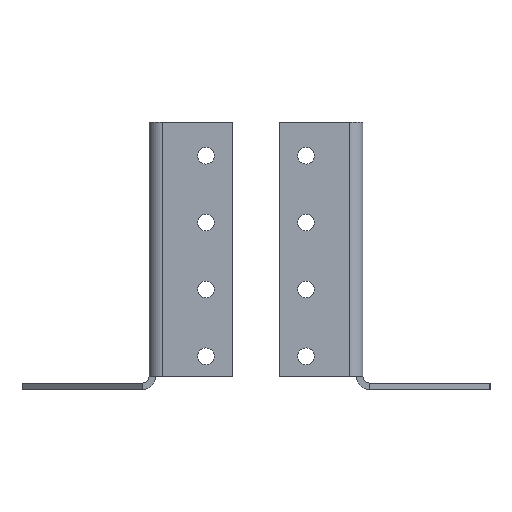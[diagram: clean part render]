
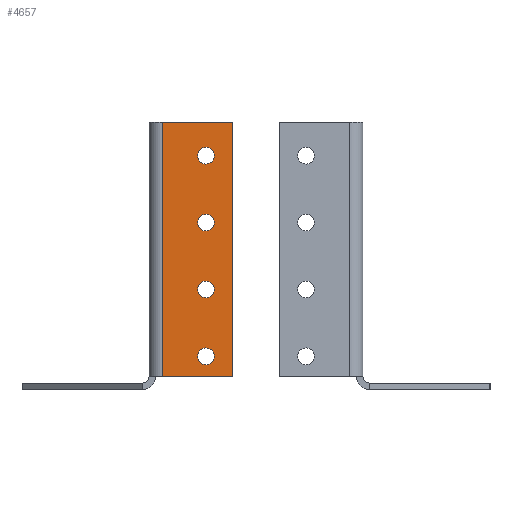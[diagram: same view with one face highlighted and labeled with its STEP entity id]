
A CAD part, front view. The second image highlights one B-rep face of the part: STEP entity #4657.
In plain terms, the highlighted planar face has unit normal (0, -1, 0).
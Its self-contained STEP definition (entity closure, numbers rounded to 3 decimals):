
#43 = ORIENTED_EDGE ( 'NONE', *, *, #5623, .T. ) ;
#61 = CARTESIAN_POINT ( 'NONE',  ( 15., -2., -67.5 ) ) ;
#75 = AXIS2_PLACEMENT_3D ( 'NONE', #5603, #2849, #3326 ) ;
#101 = DIRECTION ( 'NONE',  ( 0., 1., 0. ) ) ;
#245 = DIRECTION ( 'NONE',  ( 1., 0., 0. ) ) ;
#262 = AXIS2_PLACEMENT_3D ( 'NONE', #4849, #2212, #2064 ) ;
#349 = VERTEX_POINT ( 'NONE', #3607 ) ;
#364 = CIRCLE ( 'NONE', #3169, 2.5 ) ;
#425 = CIRCLE ( 'NONE', #75, 2.5 ) ;
#443 = AXIS2_PLACEMENT_3D ( 'NONE', #4251, #3810, #2897 ) ;
#467 = DIRECTION ( 'NONE',  ( 0., 1., 0. ) ) ;
#471 = VERTEX_POINT ( 'NONE', #5442 ) ;
#495 = EDGE_CURVE ( 'NONE', #471, #1691, #364, .T. ) ;
#539 = EDGE_CURVE ( 'NONE', #5553, #4862, #1937, .T. ) ;
#544 = DIRECTION ( 'NONE',  ( 0., 0., -1. ) ) ;
#609 = DIRECTION ( 'NONE',  ( 0., 0., -1. ) ) ;
#778 = EDGE_LOOP ( 'NONE', ( #2903, #2711 ) ) ;
#1003 = DIRECTION ( 'NONE',  ( 0., 1., 0. ) ) ;
#1057 = LINE ( 'NONE', #1987, #4549 ) ;
#1276 = ORIENTED_EDGE ( 'NONE', *, *, #3389, .F. ) ;
#1291 = FACE_BOUND ( 'NONE', #4725, .T. ) ;
#1348 = CARTESIAN_POINT ( 'NONE',  ( 15., -2., -30. ) ) ;
#1360 = VERTEX_POINT ( 'NONE', #5073 ) ;
#1498 = FACE_OUTER_BOUND ( 'NONE', #5709, .T. ) ;
#1559 = DIRECTION ( 'NONE',  ( 0., 0., -1. ) ) ;
#1603 = ORIENTED_EDGE ( 'NONE', *, *, #5418, .T. ) ;
#1691 = VERTEX_POINT ( 'NONE', #5305 ) ;
#1730 = CARTESIAN_POINT ( 'NONE',  ( 15., -2., -52.5 ) ) ;
#1850 = AXIS2_PLACEMENT_3D ( 'NONE', #2080, #5669, #1559 ) ;
#1851 = DIRECTION ( 'NONE',  ( 0., 0., -1. ) ) ;
#1865 = ORIENTED_EDGE ( 'NONE', *, *, #4937, .T. ) ;
#1926 = VERTEX_POINT ( 'NONE', #5208 ) ;
#1937 = CIRCLE ( 'NONE', #1850, 2.5 ) ;
#1967 = CARTESIAN_POINT ( 'NONE',  ( 15., -2., -30. ) ) ;
#1987 = CARTESIAN_POINT ( 'NONE',  ( 0., -2., 0. ) ) ;
#2064 = DIRECTION ( 'NONE',  ( 0., 0., -1. ) ) ;
#2080 = CARTESIAN_POINT ( 'NONE',  ( 15., -2., -10. ) ) ;
#2134 = CIRCLE ( 'NONE', #443, 2.5 ) ;
#2184 = AXIS2_PLACEMENT_3D ( 'NONE', #1348, #1003, #4592 ) ;
#2212 = DIRECTION ( 'NONE',  ( 0., 1., 0. ) ) ;
#2288 = ORIENTED_EDGE ( 'NONE', *, *, #495, .T. ) ;
#2320 = CARTESIAN_POINT ( 'NONE',  ( 15., -2., -70. ) ) ;
#2388 = EDGE_CURVE ( 'NONE', #1360, #2688, #425, .T. ) ;
#2483 = FACE_BOUND ( 'NONE', #5334, .T. ) ;
#2544 = CIRCLE ( 'NONE', #4283, 2.5 ) ;
#2589 = LINE ( 'NONE', #3770, #3085 ) ;
#2688 = VERTEX_POINT ( 'NONE', #1730 ) ;
#2711 = ORIENTED_EDGE ( 'NONE', *, *, #539, .T. ) ;
#2762 = VERTEX_POINT ( 'NONE', #61 ) ;
#2828 = FACE_BOUND ( 'NONE', #3312, .T. ) ;
#2849 = DIRECTION ( 'NONE',  ( 0., 1., 0. ) ) ;
#2879 = DIRECTION ( 'NONE',  ( 0., 0., -1. ) ) ;
#2897 = DIRECTION ( 'NONE',  ( 0., 0., -1. ) ) ;
#2903 = ORIENTED_EDGE ( 'NONE', *, *, #5397, .T. ) ;
#2919 = CIRCLE ( 'NONE', #2184, 2.5 ) ;
#2974 = FACE_BOUND ( 'NONE', #778, .T. ) ;
#3049 = LINE ( 'NONE', #5801, #3199 ) ;
#3085 = VECTOR ( 'NONE', #3752, 1000. ) ;
#3149 = CARTESIAN_POINT ( 'NONE',  ( 15., -2., -12.5 ) ) ;
#3169 = AXIS2_PLACEMENT_3D ( 'NONE', #1967, #4188, #609 ) ;
#3195 = CIRCLE ( 'NONE', #262, 2.5 ) ;
#3199 = VECTOR ( 'NONE', #4441, 1000. ) ;
#3211 = CARTESIAN_POINT ( 'NONE',  ( 15., -2., -50. ) ) ;
#3241 = ORIENTED_EDGE ( 'NONE', *, *, #5574, .T. ) ;
#3312 = EDGE_LOOP ( 'NONE', ( #5656, #3241 ) ) ;
#3326 = DIRECTION ( 'NONE',  ( 0., 0., -1. ) ) ;
#3389 = EDGE_CURVE ( 'NONE', #3569, #1926, #2589, .T. ) ;
#3569 = VERTEX_POINT ( 'NONE', #5613 ) ;
#3607 = CARTESIAN_POINT ( 'NONE',  ( 23., -2., 0. ) ) ;
#3644 = VERTEX_POINT ( 'NONE', #3793 ) ;
#3656 = EDGE_CURVE ( 'NONE', #3644, #349, #1057, .T. ) ;
#3752 = DIRECTION ( 'NONE',  ( -1., 0., 0. ) ) ;
#3770 = CARTESIAN_POINT ( 'NONE',  ( 0., -2., -76. ) ) ;
#3778 = CARTESIAN_POINT ( 'NONE',  ( 15., -2., -7.5 ) ) ;
#3793 = CARTESIAN_POINT ( 'NONE',  ( 2., -2., 0. ) ) ;
#3810 = DIRECTION ( 'NONE',  ( 0., 1., 0. ) ) ;
#3856 = EDGE_CURVE ( 'NONE', #3644, #1926, #3049, .T. ) ;
#4040 = CIRCLE ( 'NONE', #5188, 2.5 ) ;
#4188 = DIRECTION ( 'NONE',  ( 0., 1., 0. ) ) ;
#4251 = CARTESIAN_POINT ( 'NONE',  ( 15., -2., -10. ) ) ;
#4283 = AXIS2_PLACEMENT_3D ( 'NONE', #2320, #101, #544 ) ;
#4397 = VECTOR ( 'NONE', #2879, 1000. ) ;
#4441 = DIRECTION ( 'NONE',  ( 0., 0., -1. ) ) ;
#4549 = VECTOR ( 'NONE', #245, 1000. ) ;
#4592 = DIRECTION ( 'NONE',  ( 0., 0., -1. ) ) ;
#4620 = DIRECTION ( 'NONE',  ( 0., 0., -1. ) ) ;
#4657 = ADVANCED_FACE ( 'NONE', ( #2483, #2828, #1291, #2974, #1498 ), #5532, .T. ) ;
#4660 = DIRECTION ( 'NONE',  ( 0., -1., 0. ) ) ;
#4693 = CARTESIAN_POINT ( 'NONE',  ( 23., -2., 0. ) ) ;
#4725 = EDGE_LOOP ( 'NONE', ( #1865, #2288 ) ) ;
#4760 = CARTESIAN_POINT ( 'NONE',  ( 15., -2., -72.5 ) ) ;
#4798 = AXIS2_PLACEMENT_3D ( 'NONE', #5550, #4660, #4620 ) ;
#4815 = LINE ( 'NONE', #4693, #4397 ) ;
#4824 = ORIENTED_EDGE ( 'NONE', *, *, #3656, .F. ) ;
#4849 = CARTESIAN_POINT ( 'NONE',  ( 15., -2., -70. ) ) ;
#4862 = VERTEX_POINT ( 'NONE', #3778 ) ;
#4869 = ORIENTED_EDGE ( 'NONE', *, *, #3856, .T. ) ;
#4937 = EDGE_CURVE ( 'NONE', #1691, #471, #2919, .T. ) ;
#5073 = CARTESIAN_POINT ( 'NONE',  ( 15., -2., -47.5 ) ) ;
#5188 = AXIS2_PLACEMENT_3D ( 'NONE', #3211, #467, #1851 ) ;
#5208 = CARTESIAN_POINT ( 'NONE',  ( 2., -2., -76. ) ) ;
#5305 = CARTESIAN_POINT ( 'NONE',  ( 15., -2., -27.5 ) ) ;
#5334 = EDGE_LOOP ( 'NONE', ( #43, #1603 ) ) ;
#5394 = EDGE_CURVE ( 'NONE', #349, #3569, #4815, .T. ) ;
#5397 = EDGE_CURVE ( 'NONE', #4862, #5553, #2134, .T. ) ;
#5418 = EDGE_CURVE ( 'NONE', #5794, #2762, #3195, .T. ) ;
#5442 = CARTESIAN_POINT ( 'NONE',  ( 15., -2., -32.5 ) ) ;
#5532 = PLANE ( 'NONE',  #4798 ) ;
#5550 = CARTESIAN_POINT ( 'NONE',  ( 0., -2., 0. ) ) ;
#5553 = VERTEX_POINT ( 'NONE', #3149 ) ;
#5574 = EDGE_CURVE ( 'NONE', #2688, #1360, #4040, .T. ) ;
#5603 = CARTESIAN_POINT ( 'NONE',  ( 15., -2., -50. ) ) ;
#5613 = CARTESIAN_POINT ( 'NONE',  ( 23., -2., -76. ) ) ;
#5623 = EDGE_CURVE ( 'NONE', #2762, #5794, #2544, .T. ) ;
#5640 = ORIENTED_EDGE ( 'NONE', *, *, #5394, .F. ) ;
#5656 = ORIENTED_EDGE ( 'NONE', *, *, #2388, .T. ) ;
#5669 = DIRECTION ( 'NONE',  ( 0., 1., 0. ) ) ;
#5709 = EDGE_LOOP ( 'NONE', ( #4824, #4869, #1276, #5640 ) ) ;
#5794 = VERTEX_POINT ( 'NONE', #4760 ) ;
#5801 = CARTESIAN_POINT ( 'NONE',  ( 2., -2., 0. ) ) ;
